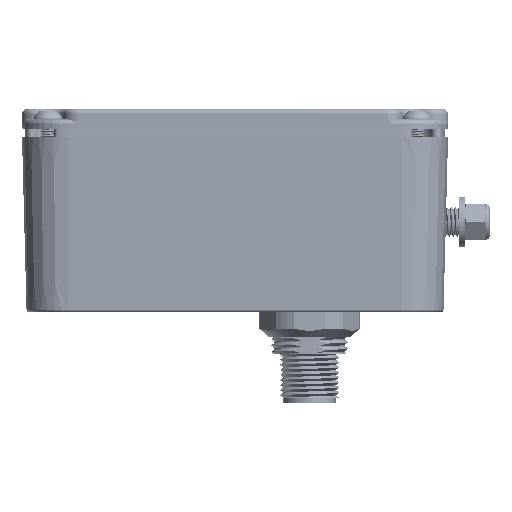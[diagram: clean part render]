
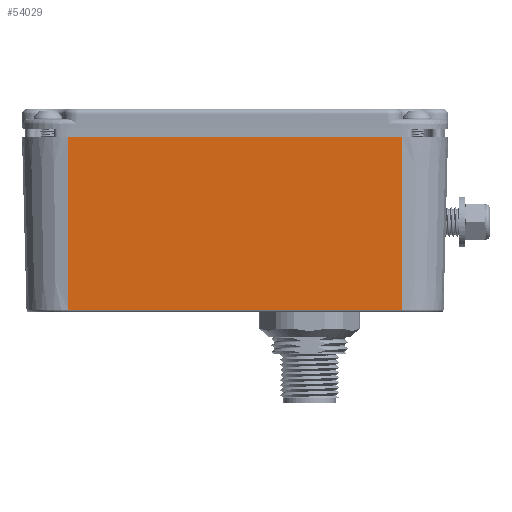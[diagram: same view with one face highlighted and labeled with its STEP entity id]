
A CAD part, left-side view. The second image highlights one B-rep face of the part: STEP entity #54029.
In plain terms, the highlighted planar face has unit normal (-1, 0, -0.026).
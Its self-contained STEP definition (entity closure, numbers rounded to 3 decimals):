
#1191 = VECTOR ( 'NONE', #36740, 1000. ) ;
#4896 = LINE ( 'NONE', #97847, #146231 ) ;
#5465 = LINE ( 'NONE', #40863, #16642 ) ;
#6583 = VECTOR ( 'NONE', #69404, 1000. ) ;
#9477 = CARTESIAN_POINT ( 'NONE',  ( -79.402, 0., 0. ) ) ;
#16642 = VECTOR ( 'NONE', #132894, 1000. ) ;
#24912 = VERTEX_POINT ( 'NONE', #103838 ) ;
#35111 = VERTEX_POINT ( 'NONE', #65224 ) ;
#35266 = CARTESIAN_POINT ( 'NONE',  ( -79.402, 0., 0. ) ) ;
#36740 = DIRECTION ( 'NONE',  ( -0.026, 0., 1. ) ) ;
#36796 = DIRECTION ( 'NONE',  ( -1., 0., -0.026 ) ) ;
#40863 = CARTESIAN_POINT ( 'NONE',  ( -78.509, -33., -34.101 ) ) ;
#49127 = EDGE_CURVE ( 'NONE', #151279, #89721, #94286, .T. ) ;
#54029 = ADVANCED_FACE ( 'NONE', ( #69145 ), #81339, .T. ) ;
#65224 = CARTESIAN_POINT ( 'NONE',  ( -78.509, 33., -34.101 ) ) ;
#66414 = ORIENTED_EDGE ( 'NONE', *, *, #128345, .T. ) ;
#68616 = AXIS2_PLACEMENT_3D ( 'NONE', #35266, #36796, #82072 ) ;
#69145 = FACE_OUTER_BOUND ( 'NONE', #148695, .T. ) ;
#69404 = DIRECTION ( 'NONE',  ( 0., -1., 0. ) ) ;
#72613 = ORIENTED_EDGE ( 'NONE', *, *, #49127, .T. ) ;
#73376 = EDGE_CURVE ( 'NONE', #24912, #89721, #113862, .T. ) ;
#73628 = CARTESIAN_POINT ( 'NONE',  ( -79.402, -33., 0. ) ) ;
#80532 = ORIENTED_EDGE ( 'NONE', *, *, #73376, .F. ) ;
#81339 = PLANE ( 'NONE',  #68616 ) ;
#82020 = CARTESIAN_POINT ( 'NONE',  ( -79.402, -33., 0. ) ) ;
#82072 = DIRECTION ( 'NONE',  ( -0.026, 0., 1. ) ) ;
#87936 = CARTESIAN_POINT ( 'NONE',  ( -78.509, -33., -34.101 ) ) ;
#89721 = VERTEX_POINT ( 'NONE', #73628 ) ;
#94286 = LINE ( 'NONE', #82020, #1191 ) ;
#97847 = CARTESIAN_POINT ( 'NONE',  ( -79.402, 33., 0. ) ) ;
#103838 = CARTESIAN_POINT ( 'NONE',  ( -79.402, 33., 0. ) ) ;
#113862 = LINE ( 'NONE', #9477, #6583 ) ;
#118178 = EDGE_CURVE ( 'NONE', #35111, #24912, #4896, .T. ) ;
#121597 = DIRECTION ( 'NONE',  ( -0.026, 0., 1. ) ) ;
#128345 = EDGE_CURVE ( 'NONE', #35111, #151279, #5465, .T. ) ;
#132894 = DIRECTION ( 'NONE',  ( 0., -1., 0. ) ) ;
#146231 = VECTOR ( 'NONE', #121597, 1000. ) ;
#148695 = EDGE_LOOP ( 'NONE', ( #148927, #66414, #72613, #80532 ) ) ;
#148927 = ORIENTED_EDGE ( 'NONE', *, *, #118178, .F. ) ;
#151279 = VERTEX_POINT ( 'NONE', #87936 ) ;
